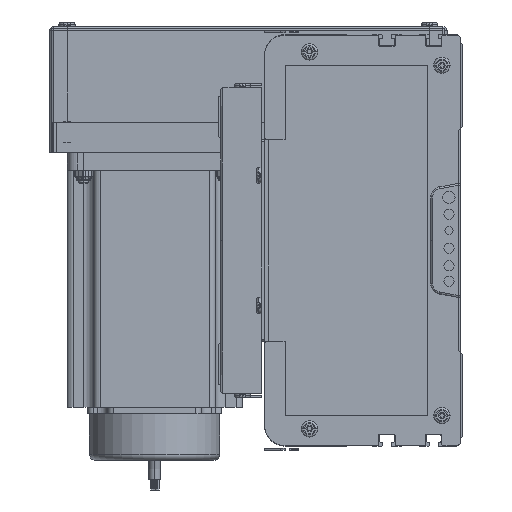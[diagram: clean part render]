
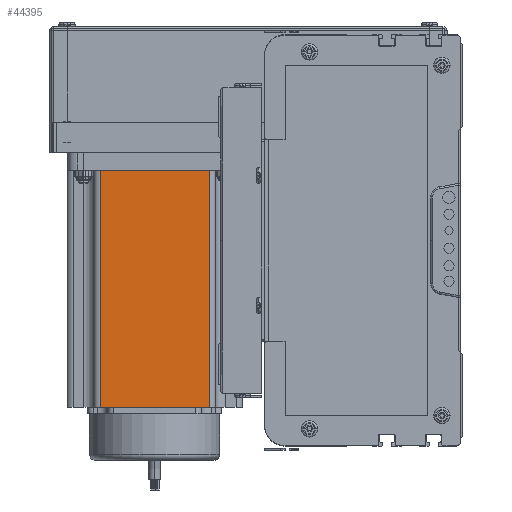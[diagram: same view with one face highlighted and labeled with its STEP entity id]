
A CAD part, left-side view. The second image highlights one B-rep face of the part: STEP entity #44395.
In plain terms, the highlighted planar face has unit normal (-1, 0, 0) as drawn and (0, -1, 0) by its records, which use the part's own axes.
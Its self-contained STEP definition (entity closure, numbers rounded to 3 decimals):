
#44171 = VERTEX_POINT ( 'NONE', #141219 ) ;
#44172 = EDGE_LOOP ( 'NONE', ( #44193, #44397, #44487, #44546 ) ) ;
#44193 = ORIENTED_EDGE ( 'NONE', *, *, #44247, .T. ) ;
#44247 = EDGE_CURVE ( 'NONE', #44401, #44646, #141467, .T. ) ;
#44363 = VERTEX_POINT ( 'NONE', #141774 ) ;
#44395 = ADVANCED_FACE ( 'NONE', ( #141771 ), #141857, .F. ) ;
#44397 = ORIENTED_EDGE ( 'NONE', *, *, #44400, .T. ) ;
#44400 = EDGE_CURVE ( 'NONE', #44646, #44363, #141849, .T. ) ;
#44401 = VERTEX_POINT ( 'NONE', #142039 ) ;
#44487 = ORIENTED_EDGE ( 'NONE', *, *, #44553, .F. ) ;
#44488 = EDGE_CURVE ( 'NONE', #44171, #44401, #143055, .T. ) ;
#44546 = ORIENTED_EDGE ( 'NONE', *, *, #44488, .T. ) ;
#44553 = EDGE_CURVE ( 'NONE', #44171, #44363, #143557, .T. ) ;
#44646 = VERTEX_POINT ( 'NONE', #141892 ) ;
#141219 = CARTESIAN_POINT ( 'NONE',  ( 16.16, 0., 116.5 ) ) ;
#141427 = DIRECTION ( 'NONE',  ( 1., 0., 0. ) ) ;
#141429 = VECTOR ( 'NONE', #141427, 1000. ) ;
#141466 = CARTESIAN_POINT ( 'NONE',  ( 0., 0., 0. ) ) ;
#141467 = LINE ( 'NONE', #141466, #141429 ) ;
#141771 = FACE_OUTER_BOUND ( 'NONE', #44172, .T. ) ;
#141774 = CARTESIAN_POINT ( 'NONE',  ( 69.74, 0., 116.5 ) ) ;
#141847 = VECTOR ( 'NONE', #141916, 1000. ) ;
#141848 = CARTESIAN_POINT ( 'NONE',  ( 69.74, 0., 116.5 ) ) ;
#141849 = LINE ( 'NONE', #141848, #141847 ) ;
#141852 = DIRECTION ( 'NONE',  ( 0., 0., 1. ) ) ;
#141853 = DIRECTION ( 'NONE',  ( 0., 1., 0. ) ) ;
#141854 = CARTESIAN_POINT ( 'NONE',  ( 0., 0., 116.5 ) ) ;
#141855 = AXIS2_PLACEMENT_3D ( 'NONE', #141854, #141853, #141852 ) ;
#141857 = PLANE ( 'NONE',  #141855 ) ;
#141892 = CARTESIAN_POINT ( 'NONE',  ( 69.74, 0., 0. ) ) ;
#141916 = DIRECTION ( 'NONE',  ( 0., 0., 1. ) ) ;
#142039 = CARTESIAN_POINT ( 'NONE',  ( 16.16, 0., 0. ) ) ;
#143047 = DIRECTION ( 'NONE',  ( 0., 0., -1. ) ) ;
#143049 = VECTOR ( 'NONE', #143047, 1000. ) ;
#143054 = CARTESIAN_POINT ( 'NONE',  ( 16.16, 0., 116.5 ) ) ;
#143055 = LINE ( 'NONE', #143054, #143049 ) ;
#143551 = DIRECTION ( 'NONE',  ( 1., 0., 0. ) ) ;
#143553 = VECTOR ( 'NONE', #143551, 1000. ) ;
#143555 = CARTESIAN_POINT ( 'NONE',  ( 0., 0., 116.5 ) ) ;
#143557 = LINE ( 'NONE', #143555, #143553 ) ;
